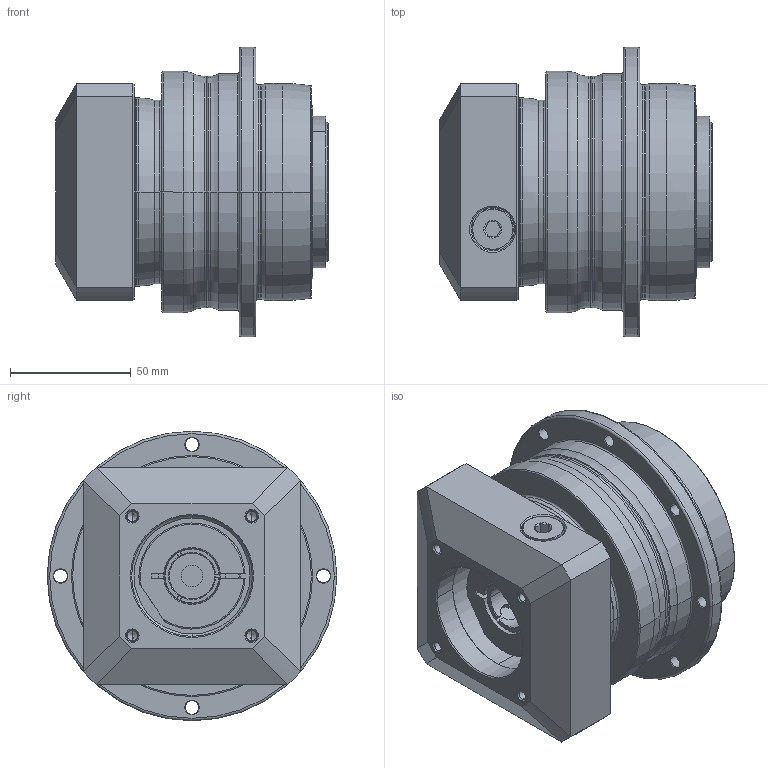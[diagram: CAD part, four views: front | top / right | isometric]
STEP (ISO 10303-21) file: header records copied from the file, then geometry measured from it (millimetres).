
FILE_DESCRIPTION((''),'2;1');
FILE_NAME('AH090_1ST_19-P0409400101_ASM','2016-07-27T',('d00435'),(''),'PRO/ENGINEER BY PARAMETRIC TECHNOLOGY CORPORATION, 2008410','PRO/ENGINEER BY PARAMETRIC TECHNOLOGY CORPORATION, 2008410','');
FILE_SCHEMA(('CONFIG_CONTROL_DESIGN'));
Length unit declared in the file: millimetre
Products named in the file (8): P0255300003; P0359300003; P1318300201; P0409400101; P0503400006; P0912302001; 21711412017; AH090_1ST_19-P0409400101_ASM
Assembly tree (7 placements, depth 2):
  AH090_1ST_19-P0409400101_ASM
    P0255300003
    P0359300003
    P1318300201
    P0409400101
    P0503400006
    P0912302001
    21711412017
Bounding box: 113 x 120 x 120 mm (x, y, z)
Volume: 677055.8 mm3; surface area: 137412.1 mm2
Topology: 8 solids, 32 shells, 591 faces, 1369 edges, 831 vertices
Faces by surface type: cylinder 246, cone 152, plane 115, torus 62, bspline 16
Entity records: 21149 total; most frequent: CARTESIAN_POINT 7356, DIRECTION 3155, ORIENTED_EDGE 2550, AXIS2_PLACEMENT_3D 1343, EDGE_CURVE 1323, VERTEX_POINT 831, CIRCLE 743, EDGE_LOOP 704
